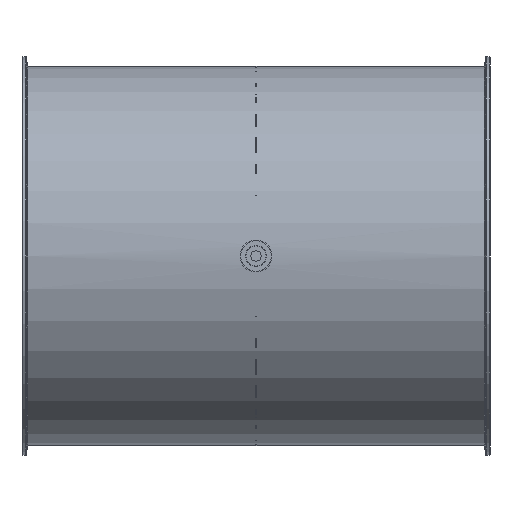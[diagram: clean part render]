
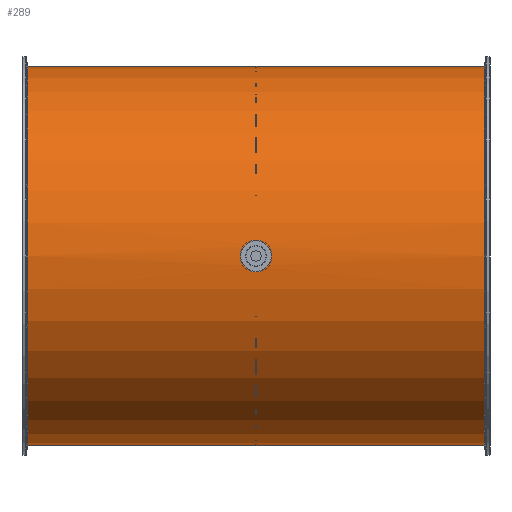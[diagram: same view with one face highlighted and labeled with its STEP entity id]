
A CAD part, front view. The second image highlights one B-rep face of the part: STEP entity #289.
In plain terms, the highlighted cylindrical face has radius 178.3 mm (diameter 356.6 mm), a full revolution.
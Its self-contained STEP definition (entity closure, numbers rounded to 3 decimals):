
#229=B_SPLINE_CURVE_WITH_KNOTS('',3,(#1641,#1642,#1643,#1644,#1645,#1646,
#1647,#1648,#1649,#1650,#1651,#1652,#1653,#1654,#1655,#1656,#1657,#1658),
 .UNSPECIFIED.,.T.,.F.,(2,2,2,2,2,2,2,2,2,2,2),(-0.125,0.,0.125,0.25,0.375,
0.5,0.625,0.75,0.875,1.,1.125),.UNSPECIFIED.);
#230=B_SPLINE_CURVE_WITH_KNOTS('',3,(#1660,#1661,#1662,#1663,#1664,#1665,
#1666,#1667,#1668,#1669,#1670,#1671,#1672,#1673,#1674,#1675,#1676,#1677),
 .UNSPECIFIED.,.T.,.F.,(2,2,2,2,2,2,2,2,2,2,2),(-0.125,0.,0.125,0.25,0.375,
0.5,0.625,0.75,0.875,1.,1.125),.UNSPECIFIED.);
#253=CYLINDRICAL_SURFACE('',#1156,178.3);
#289=ADVANCED_FACE('',(#409,#410,#411,#412),#253,.T.);
#409=FACE_BOUND('',#511,.T.);
#410=FACE_BOUND('',#512,.T.);
#411=FACE_BOUND('',#513,.T.);
#412=FACE_BOUND('',#514,.T.);
#511=EDGE_LOOP('',(#643));
#512=EDGE_LOOP('',(#644));
#513=EDGE_LOOP('',(#645));
#514=EDGE_LOOP('',(#646));
#643=ORIENTED_EDGE('',*,*,#961,.T.);
#644=ORIENTED_EDGE('',*,*,#962,.F.);
#645=ORIENTED_EDGE('',*,*,#963,.F.);
#646=ORIENTED_EDGE('',*,*,#964,.T.);
#871=VERTEX_POINT('',#1640);
#872=VERTEX_POINT('',#1659);
#873=VERTEX_POINT('',#1678);
#874=VERTEX_POINT('',#1680);
#961=EDGE_CURVE('',#871,#871,#1079,.T.);
#962=EDGE_CURVE('',#872,#872,#229,.T.);
#963=EDGE_CURVE('',#873,#873,#230,.T.);
#964=EDGE_CURVE('',#874,#874,#1080,.T.);
#1079=CIRCLE('',#1154,178.3);
#1080=CIRCLE('',#1155,178.3);
#1154=AXIS2_PLACEMENT_3D('',#1639,#1314,#1315);
#1155=AXIS2_PLACEMENT_3D('',#1679,#1316,#1317);
#1156=AXIS2_PLACEMENT_3D('',#1681,#1318,#1319);
#1314=DIRECTION('',(-1.,0.,0.));
#1315=DIRECTION('',(0.,0.,-1.));
#1316=DIRECTION('',(1.,0.,0.));
#1317=DIRECTION('',(0.,0.,1.));
#1318=DIRECTION('',(1.,0.,0.));
#1319=DIRECTION('',(0.,0.,-1.));
#1639=CARTESIAN_POINT('',(214.804,-51.,125.));
#1640=CARTESIAN_POINT('',(214.804,-51.,-53.3));
#1641=CARTESIAN_POINT('',(2.643,127.019,115.));
#1642=CARTESIAN_POINT('',(-2.643,127.019,115.));
#1643=CARTESIAN_POINT('',(-5.227,127.087,116.085));
#1644=CARTESIAN_POINT('',(-8.916,127.233,119.775));
#1645=CARTESIAN_POINT('',(-9.999,127.3,122.385));
#1646=CARTESIAN_POINT('',(-10.001,127.3,127.604));
#1647=CARTESIAN_POINT('',(-8.941,127.234,130.2));
#1648=CARTESIAN_POINT('',(-5.209,127.086,133.935));
#1649=CARTESIAN_POINT('',(-2.614,127.019,134.999));
#1650=CARTESIAN_POINT('',(2.607,127.019,135.001));
#1651=CARTESIAN_POINT('',(5.218,127.086,133.92));
#1652=CARTESIAN_POINT('',(8.91,127.233,130.236));
#1653=CARTESIAN_POINT('',(9.997,127.3,127.649));
#1654=CARTESIAN_POINT('',(10.003,127.3,122.371));
#1655=CARTESIAN_POINT('',(8.921,127.233,119.782));
#1656=CARTESIAN_POINT('',(5.232,127.087,116.087));
#1657=CARTESIAN_POINT('',(2.643,127.019,115.));
#1658=CARTESIAN_POINT('',(-2.643,127.019,115.));
#1659=CARTESIAN_POINT('',(0.,127.019,115.));
#1660=CARTESIAN_POINT('',(-2.643,-229.019,115.));
#1661=CARTESIAN_POINT('',(2.643,-229.019,115.));
#1662=CARTESIAN_POINT('',(5.227,-229.087,116.085));
#1663=CARTESIAN_POINT('',(8.916,-229.233,119.775));
#1664=CARTESIAN_POINT('',(9.999,-229.3,122.385));
#1665=CARTESIAN_POINT('',(10.001,-229.3,127.604));
#1666=CARTESIAN_POINT('',(8.941,-229.234,130.2));
#1667=CARTESIAN_POINT('',(5.209,-229.086,133.935));
#1668=CARTESIAN_POINT('',(2.614,-229.019,134.999));
#1669=CARTESIAN_POINT('',(-2.607,-229.019,135.001));
#1670=CARTESIAN_POINT('',(-5.218,-229.086,133.92));
#1671=CARTESIAN_POINT('',(-8.91,-229.233,130.236));
#1672=CARTESIAN_POINT('',(-9.997,-229.3,127.649));
#1673=CARTESIAN_POINT('',(-10.003,-229.3,122.371));
#1674=CARTESIAN_POINT('',(-8.921,-229.233,119.782));
#1675=CARTESIAN_POINT('',(-5.232,-229.087,116.087));
#1676=CARTESIAN_POINT('',(-2.643,-229.019,115.));
#1677=CARTESIAN_POINT('',(2.643,-229.019,115.));
#1678=CARTESIAN_POINT('',(0.,-229.019,115.));
#1679=CARTESIAN_POINT('',(-214.804,-51.,125.));
#1680=CARTESIAN_POINT('',(-214.804,-51.,303.3));
#1681=CARTESIAN_POINT('',(-220.,-51.,125.));
